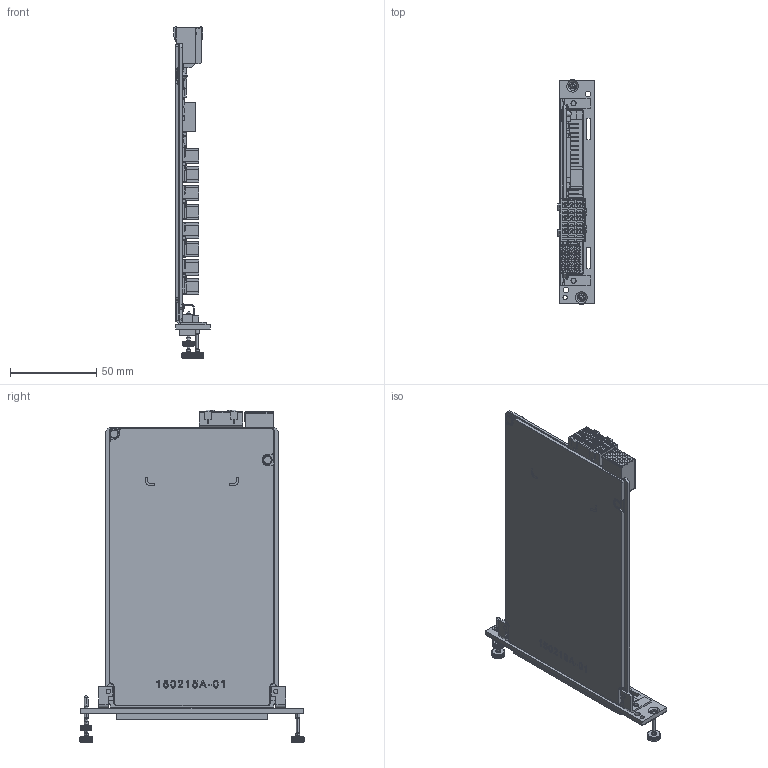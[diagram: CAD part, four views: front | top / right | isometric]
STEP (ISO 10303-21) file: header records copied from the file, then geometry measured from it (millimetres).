
FILE_DESCRIPTION((''),'2;1');
FILE_NAME('PXIE_SIGNAL_CNDTMOD_96POS_DIN','2010-02-19T',('scarrasc'),(''),'PRO/ENGINEER BY PARAMETRIC TECHNOLOGY CORPORATION, 2006080','PRO/ENGINEER BY PARAMETRIC TECHNOLOGY CORPORATION, 2006080','');
FILE_SCHEMA(('CONFIG_CONTROL_DESIGN'));
Products named in the file (1): PXIE_SIGNAL_CNDTMOD_96POS_DIN
Bounding box: 21.1 x 130.05 x 192.23 mm (x, y, z)
Volume: 70846.1 mm3; surface area: 89864.4 mm2
Topology: 3 solids, 3 shells, 5463 faces, 14613 edges, 9628 vertices
Faces by surface type: plane 4599, cylinder 655, extrusion 147, bspline 38, cone 10, torus 10, sphere 4
Entity records: 183647 total; most frequent: CARTESIAN_POINT 50058, ORIENTED_EDGE 29218, DIRECTION 24100, EDGE_CURVE 14609, VECTOR 11096, LINE 10949, VERTEX_POINT 9628, AXIS2_PLACEMENT_3D 6502
